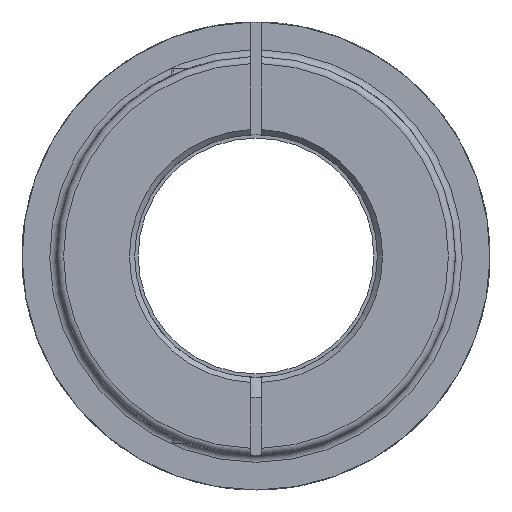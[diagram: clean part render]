
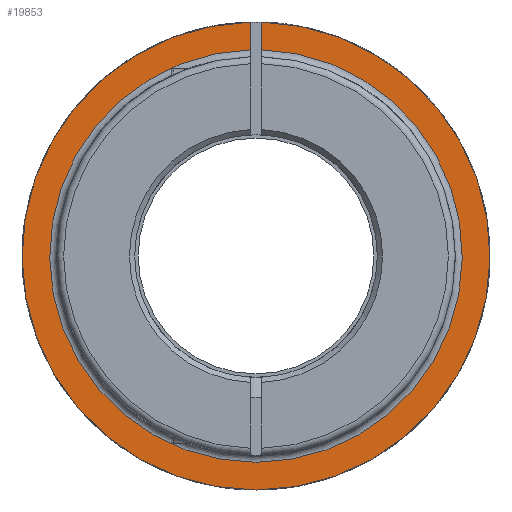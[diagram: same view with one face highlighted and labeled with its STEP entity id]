
A CAD part, left-side view. The second image highlights one B-rep face of the part: STEP entity #19853.
In plain terms, the highlighted planar face has unit normal (-1, 0, 0).
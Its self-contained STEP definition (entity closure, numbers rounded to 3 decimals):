
#741 = VERTEX_POINT ( 'NONE', #9010 ) ;
#796 = AXIS2_PLACEMENT_3D ( 'NONE', #12286, #1280, #5966 ) ;
#1280 = DIRECTION ( 'NONE',  ( -1., 0., 0. ) ) ;
#1326 = ORIENTED_EDGE ( 'NONE', *, *, #16467, .T. ) ;
#1480 = DIRECTION ( 'NONE',  ( -1., 0., 0. ) ) ;
#1610 = ORIENTED_EDGE ( 'NONE', *, *, #2001, .T. ) ;
#2001 = EDGE_CURVE ( 'NONE', #15614, #8145, #9443, .T. ) ;
#2588 = EDGE_CURVE ( 'NONE', #15614, #11812, #10162, .T. ) ;
#2658 = ORIENTED_EDGE ( 'NONE', *, *, #11668, .T. ) ;
#2736 = VECTOR ( 'NONE', #5716, 1000. ) ;
#3003 = CARTESIAN_POINT ( 'NONE',  ( -45.6, 0., 0. ) ) ;
#3117 = CARTESIAN_POINT ( 'NONE',  ( -45.6, 0., 0. ) ) ;
#4975 = AXIS2_PLACEMENT_3D ( 'NONE', #19805, #19662, #13596 ) ;
#5716 = DIRECTION ( 'NONE',  ( 0., 0., -1. ) ) ;
#5966 = DIRECTION ( 'NONE',  ( 0., 0., 1. ) ) ;
#6032 = DIRECTION ( 'NONE',  ( -1., 0., 0. ) ) ;
#6505 = VECTOR ( 'NONE', #15826, 1000. ) ;
#8100 = AXIS2_PLACEMENT_3D ( 'NONE', #3117, #6032, #20192 ) ;
#8145 = VERTEX_POINT ( 'NONE', #13287 ) ;
#8205 = ORIENTED_EDGE ( 'NONE', *, *, #10333, .T. ) ;
#8438 = CIRCLE ( 'NONE', #8100, 67.5 ) ;
#8653 = CIRCLE ( 'NONE', #4975, 59.5 ) ;
#9010 = CARTESIAN_POINT ( 'NONE',  ( -45.6, -1.5, 67.483 ) ) ;
#9435 = CARTESIAN_POINT ( 'NONE',  ( -45.6, 1.5, 67.483 ) ) ;
#9443 = CIRCLE ( 'NONE', #796, 67.5 ) ;
#10162 = LINE ( 'NONE', #18783, #6505 ) ;
#10333 = EDGE_CURVE ( 'NONE', #18086, #11812, #8653, .T. ) ;
#10346 = CARTESIAN_POINT ( 'NONE',  ( -45.6, -1.5, 0. ) ) ;
#10683 = PLANE ( 'NONE',  #18370 ) ;
#11668 = EDGE_CURVE ( 'NONE', #741, #18086, #15859, .T. ) ;
#11812 = VERTEX_POINT ( 'NONE', #20191 ) ;
#12286 = CARTESIAN_POINT ( 'NONE',  ( -45.6, 0., 0. ) ) ;
#13287 = CARTESIAN_POINT ( 'NONE',  ( -45.6, 0., -67.5 ) ) ;
#13596 = DIRECTION ( 'NONE',  ( 0., 0., 1. ) ) ;
#14060 = DIRECTION ( 'NONE',  ( 0., 0., 1. ) ) ;
#14641 = EDGE_LOOP ( 'NONE', ( #1610, #1326, #2658, #8205, #18328 ) ) ;
#14957 = CARTESIAN_POINT ( 'NONE',  ( -45.6, -1.5, 59.481 ) ) ;
#15308 = FACE_OUTER_BOUND ( 'NONE', #14641, .T. ) ;
#15614 = VERTEX_POINT ( 'NONE', #9435 ) ;
#15826 = DIRECTION ( 'NONE',  ( 0., 0., -1. ) ) ;
#15859 = LINE ( 'NONE', #10346, #2736 ) ;
#16467 = EDGE_CURVE ( 'NONE', #8145, #741, #8438, .T. ) ;
#18086 = VERTEX_POINT ( 'NONE', #14957 ) ;
#18328 = ORIENTED_EDGE ( 'NONE', *, *, #2588, .F. ) ;
#18370 = AXIS2_PLACEMENT_3D ( 'NONE', #3003, #1480, #14060 ) ;
#18783 = CARTESIAN_POINT ( 'NONE',  ( -45.6, 1.5, 0. ) ) ;
#19662 = DIRECTION ( 'NONE',  ( 1., 0., 0. ) ) ;
#19805 = CARTESIAN_POINT ( 'NONE',  ( -45.6, 0., 0. ) ) ;
#19853 = ADVANCED_FACE ( 'NONE', ( #15308 ), #10683, .T. ) ;
#20191 = CARTESIAN_POINT ( 'NONE',  ( -45.6, 1.5, 59.481 ) ) ;
#20192 = DIRECTION ( 'NONE',  ( 0., 0., 1. ) ) ;
